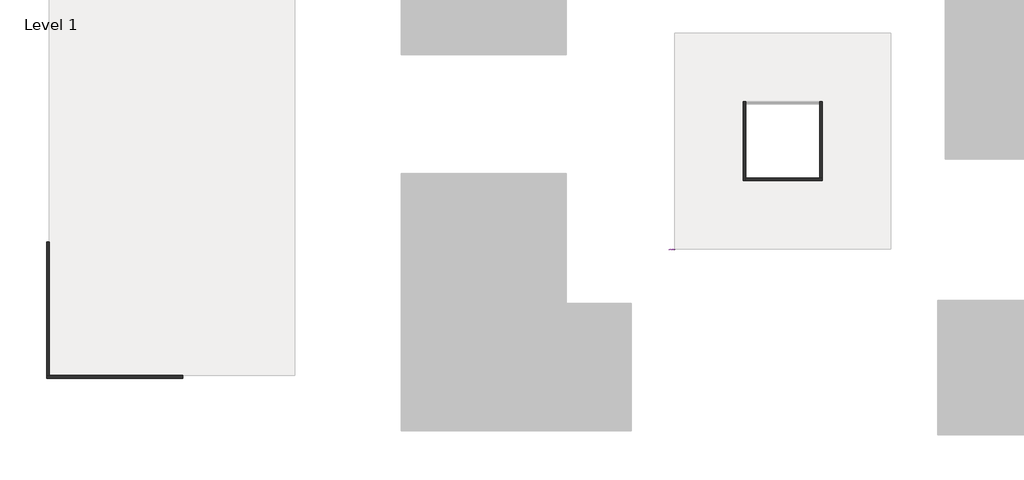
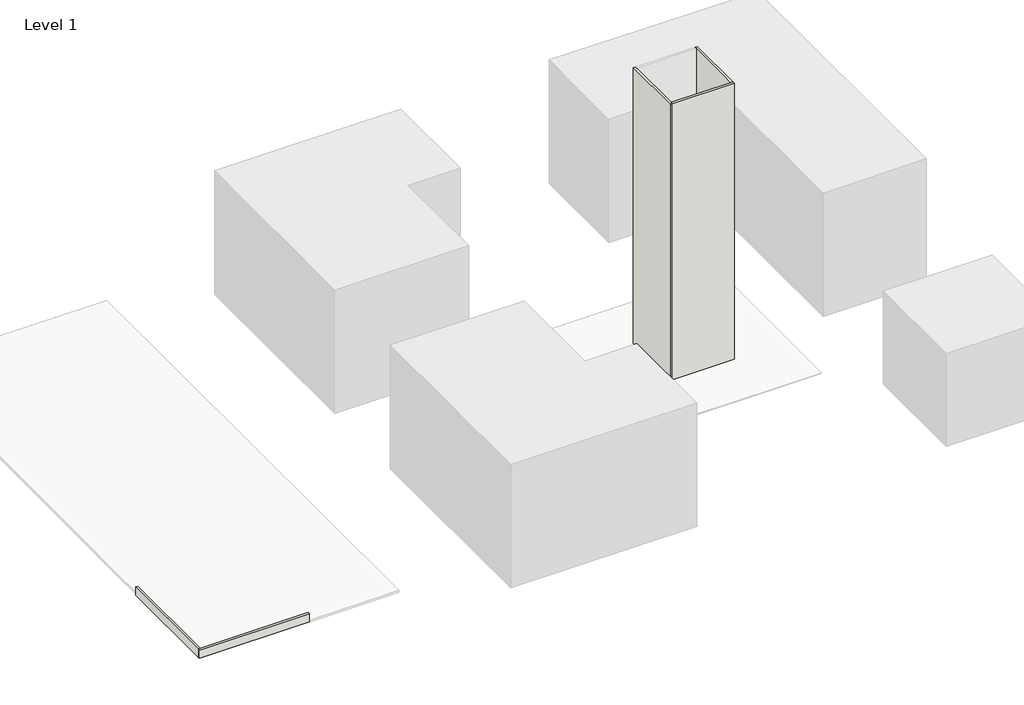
# One storey, part 1 of 2: 5 walls, 3 plates.
"""IFC4 building model written with IfcOpenShell, lengths in millimetres."""

from ifc_helpers import new_model, si_unit, origin, origin_with_axes, place, context, project, spatial, polyline, outline, extrude, faceted_brep, transform, mapped, element, save
from components import system_panel_glazed_ff972d7f, system_panel_glazed_ed7521f1, system_panel_glazed_57b749dd

model = new_model("IFC4")

# Units and contexts
model_context = context("Model", 3, world=origin())
ifc_project = project(units=[si_unit("LENGTHUNIT", "METRE", prefix="MILLI")], contexts=[model_context])

# Site, building, storey
site = spatial("IfcSite", under=ifc_project)
building = spatial("IfcBuilding", under=site)
storey = spatial("IfcBuildingStorey", under=building, Name="Level 1", Elevation=0.0)

# Plates
placement = place(None, origin())
system_panel_glazed_shape = system_panel_glazed_ff972d7f(model_context)
element("IfcPlate", 1, ObjectType="System Panel : Glazed", at=placement, inside=storey, context=model_context, shape_type="MappedRepresentation", body=[
    mapped(system_panel_glazed_shape, transform((-15975.8429834, -12561.3708988, 0.0), x_axis=(-1.0, 0.0, 0.0), y_axis=(0.0, -1.0, 0.0), z_axis=(0.0, 0.0, 1.0))),
])
system_panel_glazed_2_shape = system_panel_glazed_ed7521f1(model_context)
element("IfcPlate", 2, ObjectType="System Panel : Glazed", at=placement, inside=storey, context=model_context, shape_type="MappedRepresentation", body=[
    mapped(system_panel_glazed_2_shape, transform((-16085.4832712, -12561.3708988, 1524.0), x_axis=(-1.0, 0.0, 0.0), y_axis=(0.0, -1.0, 0.0), z_axis=(0.0, 0.0, 1.0))),
])
system_panel_glazed_3_shape = system_panel_glazed_57b749dd(model_context)
element("IfcPlate", 3, ObjectType="System Panel : Glazed", at=placement, inside=storey, context=model_context, shape_type="MappedRepresentation", body=[
    mapped(system_panel_glazed_3_shape, transform((-16195.123559, -12561.3708988, 3048.0), x_axis=(-1.0, 0.0, 0.0), y_axis=(0.0, -1.0, 0.0), z_axis=(0.0, 0.0, 1.0))),
])

# Walls
element("IfcWall", 4, ObjectType="Generic - 12\"", at=placement, inside=storey, context=model_context, shape_type="Brep", body=[
    faceted_brep([(-71436.5540673, -26846.7607316, 0.0), (-86524.1540673, -26846.7607316, 0.0), (-86828.9540673, -26846.7607316, 0.0), (-86828.9540673, -26846.7607316, 1219.2), (-86524.1540673, -26846.7607316, 1219.2), (-71436.5540673, -26846.7607316, 1219.2), (-71436.5540673, -27151.5607316, 0.0), (-71436.5540673, -27151.5607316, 1219.2), (-86828.9540673, -27151.5607316, 1219.2), (-86828.9540673, -27151.5607316, 0.0)], [[[0, 1, 2, 3, 4, 5]], [[6, 7, 8, 9]], [[2, 1, 0, 6, 9]], [[5, 4, 3, 8, 7]], [[0, 5, 7, 6]], [[3, 2, 9, 8]]]),
])
element("IfcWall", 5, ObjectType="Generic - 12\"", at=placement, inside=storey, context=model_context, shape_type="SweptSolid", body=[
    extrude(outline(polyline([(-86524.1540673, -11759.1607316), (-86524.1540673, -26846.7607316), (-86828.9540673, -26846.7607316), (-86828.9540673, -11759.1607316), (-86524.1540673, -11759.1607316)])), origin_with_axes(), (0.0, 0.0, 1.0), 1219.2),
])
element("IfcWall", 6, ObjectType="Generic - 12\" Masonry", at=placement, inside=storey, context=model_context, shape_type="Brep", body=[
    faceted_brep([(-8139.8401957, 4096.2666012, 0.0), (-8139.8401957, -4835.0083988, 0.0), (-8139.8401957, -4835.0083988, 40843.2), (-8139.8401957, 4096.2666012, 40843.2), (-7844.5651957, 4096.2666012, 0.0), (-7844.5651957, 4096.2666012, 40843.2), (-7844.5651957, 3800.9916012, 40843.2), (-7844.5651957, -4539.7333988, 40843.2), (-7844.5651957, -4835.0083988, 40843.2), (-7844.5651957, -4835.0083988, 0.0), (-7844.5651957, -4539.7333988, 0.0), (-7844.5651957, 3800.9916012, 0.0)], [[[0, 1, 2, 3]], [[4, 5, 6, 7, 8, 9, 10, 11]], [[1, 0, 4, 11, 10, 9]], [[3, 2, 8, 7, 6, 5]], [[2, 1, 9, 8]], [[0, 3, 5, 4]]]),
])
element("IfcWall", 7, ObjectType="Generic - 12\" Masonry", at=placement, inside=storey, context=model_context, shape_type="Brep", body=[
    faceted_brep([(-7844.5651957, -4835.0083988, 0.0), (791.4348043, -4835.0083988, 0.0), (791.4348043, -4835.0083988, 40843.2), (-7844.5651957, -4835.0083988, 40843.2), (-7844.5651957, -4539.7333988, 0.0), (-7844.5651957, -4539.7333988, 40843.2), (496.1598043, -4539.7333988, 40843.2), (791.4348043, -4539.7333988, 40843.2), (791.4348043, -4539.7333988, 0.0), (496.1598043, -4539.7333988, 0.0)], [[[0, 1, 2, 3]], [[4, 5, 6, 7, 8, 9]], [[1, 0, 4, 9, 8]], [[3, 2, 7, 6, 5]], [[0, 3, 5, 4]], [[2, 1, 8, 7]]]),
])
element("IfcWall", 8, ObjectType="Generic - 12\" Masonry", at=placement, inside=storey, context=model_context, shape_type="Brep", body=[
    faceted_brep([(791.4348043, -4539.7333988, 0.0), (791.4348043, 4096.2666012, 0.0), (791.4348043, 4096.2666012, 40843.2), (791.4348043, -4539.7333988, 40843.2), (496.1598043, -4539.7333988, 0.0), (496.1598043, -4539.7333988, 40843.2), (496.1598043, 3800.9916012, 40843.2), (496.1598043, 4096.2666012, 40843.2), (496.1598043, 4096.2666012, 0.0), (496.1598043, 3800.9916012, 0.0)], [[[0, 1, 2, 3]], [[4, 5, 6, 7, 8, 9]], [[1, 0, 4, 9, 8]], [[3, 2, 7, 6, 5]], [[0, 3, 5, 4]], [[2, 1, 8, 7]]]),
])

save(model, "model.ifc")
